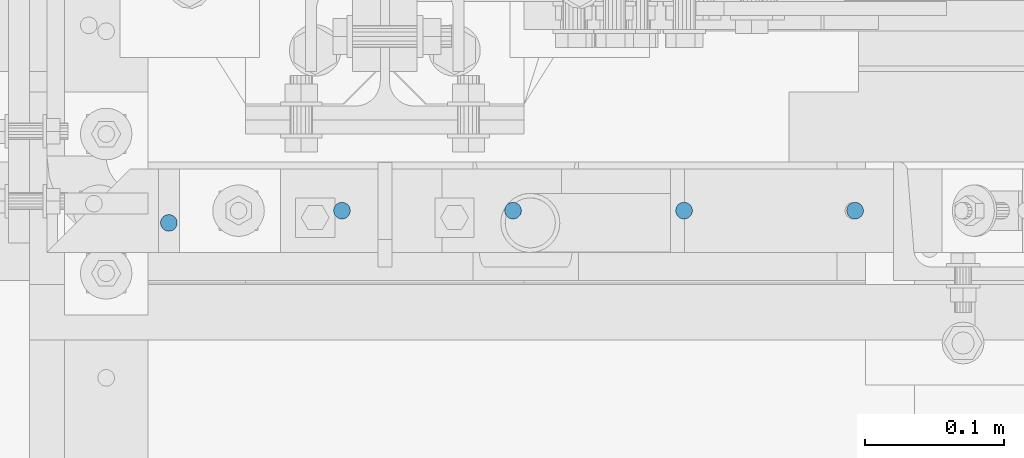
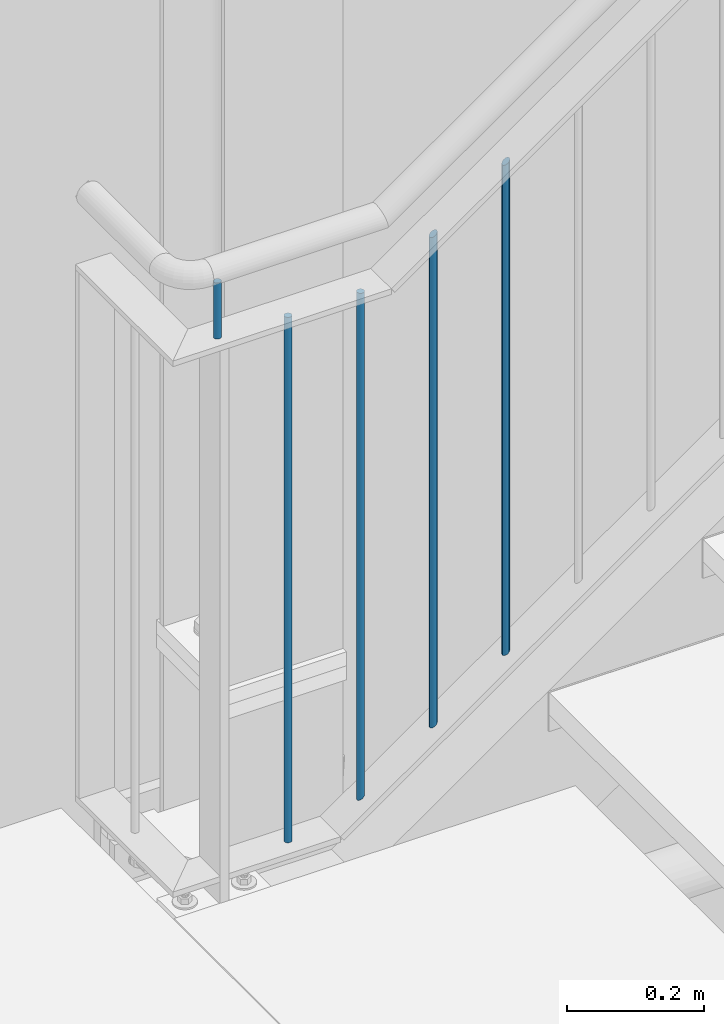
# One storey, part 70 of 831: 5 columns.
"""IFC2X3 building model written with IfcOpenShell, lengths in millimetres."""

from ifc_helpers import new_model, entity, si_unit, converted_unit, frame, origin, origin_with_axes, origin_2d, place, context, project, spatial, circle, extrude, clip, halfspace, material, element, save


model = new_model("IFC2X3")

# Units and contexts
model_context = context("Model", 3, precision=1e-09, world=origin_with_axes())
ifc_project = project(units=[si_unit("LENGTHUNIT", "METRE", prefix="MILLI"), si_unit("AREAUNIT", "SQUARE_METRE"), si_unit("VOLUMEUNIT", "CUBIC_METRE"), converted_unit("PLANEANGLEUNIT", "DEGREE", entity("IfcPlaneAngleMeasure", 0.01745329), si_unit("PLANEANGLEUNIT", "RADIAN"), dimensions=[0, 0, 0, 0, 0, 0, 0])], contexts=[model_context])

# Site, building, storey
site_placement = place(None, origin_with_axes())
site = spatial("IfcSite", under=ifc_project, at=site_placement, Name="Site", CompositionType="ELEMENT")
building_placement = place(site_placement, origin_with_axes())
building = spatial("IfcBuilding", under=site, at=building_placement, Name="Struktur 1", CompositionType="ELEMENT")
storey_placement = place(building_placement, origin_with_axes())
storey = spatial("IfcBuildingStorey", under=building, at=storey_placement, Name="Default Storey", CompositionType="ELEMENT", Elevation=0.0)

# Columns
ifc_material = material(Name="S235JR")
column_1_placement = place(None, frame((4825.963402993, 7356.736971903, 4869.285281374), z_axis=(0.0, 0.0, 1.0), x_axis=(1.0, 0.0, 0.0)))
element("IfcColumn", 1, at=column_1_placement, inside=storey, material=ifc_material, Name="Railing_Picket_Landing#0", ObjectType="Railing_Picket_Landing#0", context=model_context, shape_type="Clipping", body=[
    clip(extrude(circle(Radius=6.0, at=origin_2d()), origin(), (0.0, 0.0, -1.0), 952.285281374), halfspace(frame((-4825.963402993, -7356.736971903, -13.486281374), z_axis=(0.0, 0.0, -1.0), x_axis=(-1.0, 0.0, 0.0)), True)),
])
column_2_placement = place(None, frame((4948.713426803, 7356.736971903, 4855.8), z_axis=(0.0, 0.0, 1.0), x_axis=(1.0, 0.0, 0.0)))
element("IfcColumn", 2, at=column_2_placement, inside=storey, material=ifc_material, Name="Railing_Picket_Stair#1", ObjectType="Railing_Picket_Stair#1", context=model_context, shape_type="Clipping", body=[
    clip(extrude(circle(Radius=6.0, at=origin_2d()), origin(), (0.0, 0.0, -1.0), 913.289449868), halfspace(frame((-5171.61259365, -7356.736971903, -4538.747916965), z_axis=(-0.575128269, 0.0, 0.818063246), x_axis=(0.0, -1.0, 0.0)), True)),
])
column_3_placement = place(None, frame((5071.463450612, 7356.736971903, 4925.846278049), z_axis=(0.0, 0.0, 1.0), x_axis=(1.0, 0.0, 0.0)))
element("IfcColumn", 3, at=column_3_placement, inside=storey, material=ifc_material, Name="Railing_Picket_Stair#2", ObjectType="Railing_Picket_Stair#2", context=model_context, shape_type="Clipping", body=[
    clip(clip(extrude(circle(Radius=6.0, at=origin_2d()), origin(), (0.0, 0.0, -1.0), 897.037988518), halfspace(frame((-5294.362617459, -7356.736971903, -4608.794195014), z_axis=(-0.575128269, 0.0, 0.818063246), x_axis=(0.0, -1.0, 0.0)), True)), halfspace(frame((-5706.649784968, -7356.736971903, -4022.356358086), z_axis=(0.575128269, 0.0, -0.818063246), x_axis=(0.0, 1.0, 0.0)), True)),
])
column_4_placement = place(None, frame((5194.213474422, 7356.736971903, 5012.144017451), z_axis=(0.0, 0.0, 1.0), x_axis=(1.0, 0.0, 0.0)))
element("IfcColumn", 4, at=column_4_placement, inside=storey, material=ifc_material, Name="Railing_Picket_Stair#3", ObjectType="Railing_Picket_Stair#3", context=model_context, shape_type="Clipping", body=[
    clip(clip(extrude(circle(Radius=6.0, at=origin_2d()), origin(), (0.0, 0.0, -1.0), 897.037988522), halfspace(frame((-5417.112641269, -7356.736971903, -4695.091934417), z_axis=(-0.575128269, 0.0, 0.818063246), x_axis=(0.0, -1.0, 0.0)), True)), halfspace(frame((-5829.399808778, -7356.736971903, -4108.654097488), z_axis=(0.575128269, 0.0, -0.818063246), x_axis=(0.0, 1.0, 0.0)), True)),
])
column_5_placement = place(None, frame((4701.713402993, 7347.936971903, 4974.285281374), z_axis=(0.0, 0.0, 1.0), x_axis=(0.0, -1.0, 0.0)))
element("IfcColumn", 5, at=column_5_placement, inside=storey, material=ifc_material, Name="Bar#0", ObjectType="Bar#0", context=model_context, shape_type="Clipping", body=[
    clip(clip(extrude(circle(Radius=6.0, at=origin_2d()), origin(), (0.0, 0.0, -1.0), 116.970562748), halfspace(frame((7347.936971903, -4701.713402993, -8.486281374), z_axis=(0.0, 0.0, -1.0), x_axis=(0.0, -1.0, 0.0)), True)), halfspace(frame((7347.936971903, -4701.713402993, -108.484281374), z_axis=(0.0, 0.0, 1.0), x_axis=(0.0, 1.0, 0.0)), True)),
])

save(model, "model.ifc")
